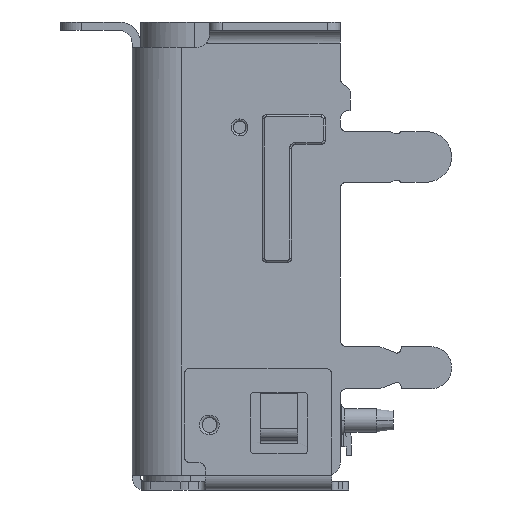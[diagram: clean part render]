
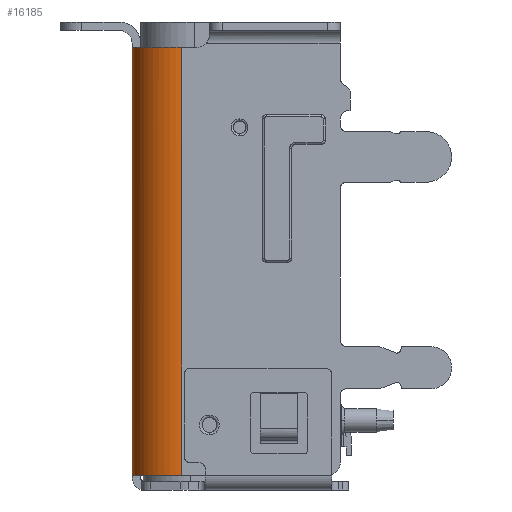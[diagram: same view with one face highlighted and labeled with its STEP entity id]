
A CAD part, left-side view. The second image highlights one B-rep face of the part: STEP entity #16185.
In plain terms, the highlighted cylindrical face has radius 1.18 mm (diameter 2.36 mm), a partial arc.
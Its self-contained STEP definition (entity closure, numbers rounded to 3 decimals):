
#10437=CARTESIAN_POINT('',(10.52,6.799,-8.341));
#10438=VERTEX_POINT('',#10437);
#10445=CARTESIAN_POINT('',(10.52,6.799,-18.491));
#10446=VERTEX_POINT('',#10445);
#10447=CARTESIAN_POINT('',(10.52,6.799,-8.341));
#10448=DIRECTION('',(0.0,0.0,-1.0));
#10449=VECTOR('',#10448,1.0);
#10450=LINE('',#10447,#10449);
#10451=EDGE_CURVE('no 42604',#10438,#10446,#10450,.T.);
#14559=CARTESIAN_POINT('',(11.7,5.619,-18.491));
#14560=VERTEX_POINT('',#14559);
#14561=CARTESIAN_POINT('',(10.52,6.799,-18.491));
#14562=CARTESIAN_POINT('',(10.677,6.799,-18.491));
#14563=CARTESIAN_POINT('',(10.828,6.769,-18.491));
#14564=CARTESIAN_POINT('',(11.116,6.65,-18.491));
#14565=CARTESIAN_POINT('',(11.244,6.564,-18.491));
#14566=CARTESIAN_POINT('',(11.465,6.343,-18.491));
#14567=CARTESIAN_POINT('',(11.551,6.215,-18.491));
#14568=CARTESIAN_POINT('',(11.671,5.926,-18.491));
#14569=CARTESIAN_POINT('',(11.7,5.776,-18.491));
#14570=CARTESIAN_POINT('',(11.7,5.619,-18.491));
#14571=B_SPLINE_CURVE_WITH_KNOTS('',3,(#14561,#14562,#14563,#14564,#14565,#14566,#14567,#14568,#14569,#14570),.UNSPECIFIED.,.F.,.U.,
 (4,2,2,2,4),(0.0,0.466,0.933,1.399,1.866),.UNSPECIFIED.);
#14572=EDGE_CURVE('no 25837',#10446,#14560,#14571,.T.);
#14659=CARTESIAN_POINT('',(11.7,5.619,-8.341));
#14660=VERTEX_POINT('',#14659);
#14667=CARTESIAN_POINT('',(10.52,6.799,-8.341));
#14668=CARTESIAN_POINT('',(10.675,6.799,-8.341));
#14669=CARTESIAN_POINT('',(10.829,6.768,-8.341));
#14670=CARTESIAN_POINT('',(11.115,6.65,-8.341));
#14671=CARTESIAN_POINT('',(11.246,6.563,-8.341));
#14672=CARTESIAN_POINT('',(11.464,6.344,-8.341));
#14673=CARTESIAN_POINT('',(11.552,6.213,-8.341));
#14674=CARTESIAN_POINT('',(11.67,5.928,-8.341));
#14675=CARTESIAN_POINT('',(11.7,5.774,-8.341));
#14676=CARTESIAN_POINT('',(11.7,5.619,-8.341));
#14677=B_SPLINE_CURVE_WITH_KNOTS('',3,(#14667,#14668,#14669,#14670,#14671,#14672,#14673,#14674,#14675,#14676),.UNSPECIFIED.,.F.,.U.,
 (4,2,2,2,4),(0.0,0.466,0.933,1.399,1.865),.UNSPECIFIED.);
#14678=EDGE_CURVE('no 74998',#10438,#14660,#14677,.T.);
#16169=ORIENTED_EDGE('no 84955',*,*,#14572,.F.);
#16170=ORIENTED_EDGE('no 69796',*,*,#10451,.F.);
#16171=ORIENTED_EDGE('no 10305',*,*,#14678,.T.);
#16172=CARTESIAN_POINT('',(11.7,5.619,-8.341));
#16173=DIRECTION('',(0.0,0.0,-1.0));
#16174=VECTOR('',#16173,1.0);
#16175=LINE('',#16172,#16174);
#16176=EDGE_CURVE('no 17758',#14660,#14560,#16175,.T.);
#16177=ORIENTED_EDGE('no 51997',*,*,#16176,.T.);
#16178=EDGE_LOOP('',(#16169,#16170,#16171,#16177));
#16179=FACE_OUTER_BOUND('',#16178,.T.);
#16180=CARTESIAN_POINT('',(10.52,5.619,-17.591));
#16181=DIRECTION('',(0.0,0.0,-1.0));
#16182=DIRECTION('',(-0.707,-0.707,0.0));
#16183=AXIS2_PLACEMENT_3D('',#16180,#16181,#16182);
#16184=CYLINDRICAL_SURFACE('',#16183,1.18);
#16185=ADVANCED_FACE('no 65739',(#16179),#16184,.T.);
